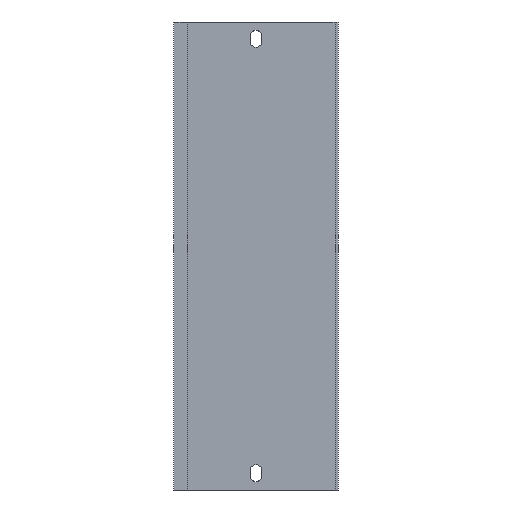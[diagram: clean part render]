
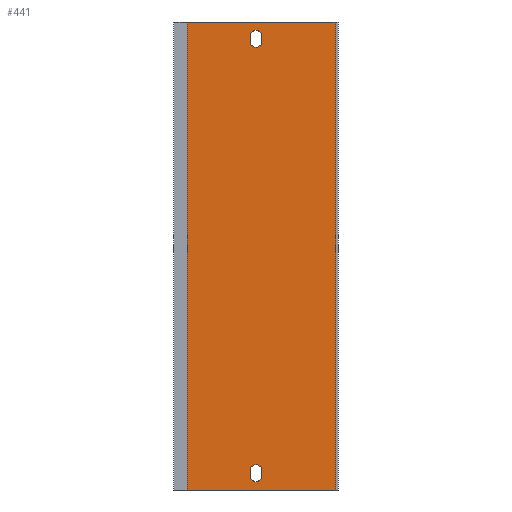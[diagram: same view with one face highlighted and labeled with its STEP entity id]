
A CAD part, front view. The second image highlights one B-rep face of the part: STEP entity #441.
In plain terms, the highlighted planar face has unit normal (0, -1, 0).
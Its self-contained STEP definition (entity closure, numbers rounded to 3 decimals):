
#8 = CIRCLE ( 'NONE', #627, 3.5 ) ;
#19 = VERTEX_POINT ( 'NONE', #637 ) ;
#30 = CARTESIAN_POINT ( 'NONE',  ( 37.5, 11., 270.5 ) ) ;
#33 = DIRECTION ( 'NONE',  ( 0., 0., 1. ) ) ;
#37 = EDGE_CURVE ( 'NONE', #273, #116, #138, .T. ) ;
#43 = VECTOR ( 'NONE', #405, 1000. ) ;
#47 = CARTESIAN_POINT ( 'NONE',  ( 44.5, 11., 270.5 ) ) ;
#50 = CARTESIAN_POINT ( 'NONE',  ( 37.5, 11., 8.5 ) ) ;
#51 = EDGE_CURVE ( 'NONE', #282, #434, #956, .T. ) ;
#59 = EDGE_LOOP ( 'NONE', ( #368, #187, #522, #621, #783, #193, #536, #360 ) ) ;
#61 = CARTESIAN_POINT ( 'NONE',  ( 41., 11., 8.5 ) ) ;
#70 = VERTEX_POINT ( 'NONE', #128 ) ;
#75 = ORIENTED_EDGE ( 'NONE', *, *, #1064, .T. ) ;
#77 = CARTESIAN_POINT ( 'NONE',  ( 41., 11., 11.5 ) ) ;
#79 = CARTESIAN_POINT ( 'NONE',  ( -8., 11., 279. ) ) ;
#80 = AXIS2_PLACEMENT_3D ( 'NONE', #568, #132, #477 ) ;
#86 = DIRECTION ( 'NONE',  ( 1., 0., 0. ) ) ;
#94 = VECTOR ( 'NONE', #510, 1000. ) ;
#116 = VERTEX_POINT ( 'NONE', #719 ) ;
#121 = DIRECTION ( 'NONE',  ( 0., -1., 0. ) ) ;
#127 = VERTEX_POINT ( 'NONE', #943 ) ;
#128 = CARTESIAN_POINT ( 'NONE',  ( 88.5, 11., 279. ) ) ;
#129 = VERTEX_POINT ( 'NONE', #725 ) ;
#130 = CARTESIAN_POINT ( 'NONE',  ( -4.8, 11., 0. ) ) ;
#132 = DIRECTION ( 'NONE',  ( 0., -1., 0. ) ) ;
#135 = DIRECTION ( 'NONE',  ( 1., 0., 0. ) ) ;
#138 = LINE ( 'NONE', #711, #500 ) ;
#167 = EDGE_CURVE ( 'NONE', #273, #552, #631, .T. ) ;
#168 = CARTESIAN_POINT ( 'NONE',  ( -6.5, 11., 0. ) ) ;
#178 = CIRCLE ( 'NONE', #240, 3.5 ) ;
#183 = CARTESIAN_POINT ( 'NONE',  ( -8., 11., 279. ) ) ;
#184 = LINE ( 'NONE', #437, #94 ) ;
#186 = EDGE_CURVE ( 'NONE', #374, #647, #855, .T. ) ;
#187 = ORIENTED_EDGE ( 'NONE', *, *, #526, .T. ) ;
#189 = EDGE_LOOP ( 'NONE', ( #895, #910, #983, #900, #527 ) ) ;
#193 = ORIENTED_EDGE ( 'NONE', *, *, #186, .T. ) ;
#201 = CARTESIAN_POINT ( 'NONE',  ( -4.8, 11., 279. ) ) ;
#212 = VERTEX_POINT ( 'NONE', #1011 ) ;
#218 = CARTESIAN_POINT ( 'NONE',  ( 41., 11., 5. ) ) ;
#219 = CARTESIAN_POINT ( 'NONE',  ( 37.5, 11., 270.5 ) ) ;
#220 = CARTESIAN_POINT ( 'NONE',  ( 44.5, 11., 11.5 ) ) ;
#240 = AXIS2_PLACEMENT_3D ( 'NONE', #77, #912, #750 ) ;
#242 = EDGE_CURVE ( 'NONE', #374, #605, #996, .T. ) ;
#254 = CIRCLE ( 'NONE', #848, 3.5 ) ;
#259 = EDGE_CURVE ( 'NONE', #434, #396, #427, .T. ) ;
#261 = VECTOR ( 'NONE', #33, 1000. ) ;
#273 = VERTEX_POINT ( 'NONE', #130 ) ;
#282 = VERTEX_POINT ( 'NONE', #30 ) ;
#320 = AXIS2_PLACEMENT_3D ( 'NONE', #941, #121, #466 ) ;
#343 = FACE_OUTER_BOUND ( 'NONE', #59, .T. ) ;
#351 = CARTESIAN_POINT ( 'NONE',  ( -4.8, 11., 279. ) ) ;
#352 = VERTEX_POINT ( 'NONE', #220 ) ;
#355 = ORIENTED_EDGE ( 'NONE', *, *, #430, .T. ) ;
#360 = ORIENTED_EDGE ( 'NONE', *, *, #167, .F. ) ;
#362 = ORIENTED_EDGE ( 'NONE', *, *, #658, .T. ) ;
#368 = ORIENTED_EDGE ( 'NONE', *, *, #37, .T. ) ;
#374 = VERTEX_POINT ( 'NONE', #351 ) ;
#387 = VERTEX_POINT ( 'NONE', #218 ) ;
#395 = EDGE_CURVE ( 'NONE', #19, #70, #436, .T. ) ;
#396 = VERTEX_POINT ( 'NONE', #1052 ) ;
#405 = DIRECTION ( 'NONE',  ( 0., 0., -1. ) ) ;
#416 = LINE ( 'NONE', #743, #738 ) ;
#418 = FACE_BOUND ( 'NONE', #630, .T. ) ;
#420 = EDGE_CURVE ( 'NONE', #127, #387, #8, .T. ) ;
#427 = CIRCLE ( 'NONE', #849, 3.5 ) ;
#430 = EDGE_CURVE ( 'NONE', #212, #352, #178, .T. ) ;
#434 = VERTEX_POINT ( 'NONE', #1059 ) ;
#436 = LINE ( 'NONE', #504, #909 ) ;
#437 = CARTESIAN_POINT ( 'NONE',  ( 37.5, 11., 8.5 ) ) ;
#441 = ADVANCED_FACE ( 'NONE', ( #343, #826, #418 ), #678, .F. ) ;
#444 = CARTESIAN_POINT ( 'NONE',  ( 44.5, 11., 270.5 ) ) ;
#457 = DIRECTION ( 'NONE',  ( 1., 0., 0. ) ) ;
#466 = DIRECTION ( 'NONE',  ( 0., 0., -1. ) ) ;
#477 = DIRECTION ( 'NONE',  ( 0., 0., -1. ) ) ;
#480 = VECTOR ( 'NONE', #949, 1000. ) ;
#500 = VECTOR ( 'NONE', #868, 1000. ) ;
#504 = CARTESIAN_POINT ( 'NONE',  ( 88.5, 11., 279. ) ) ;
#506 = VECTOR ( 'NONE', #86, 1000. ) ;
#509 = DIRECTION ( 'NONE',  ( 0., 0., -1. ) ) ;
#510 = DIRECTION ( 'NONE',  ( 0., 0., 1. ) ) ;
#516 = CIRCLE ( 'NONE', #320, 3.5 ) ;
#522 = ORIENTED_EDGE ( 'NONE', *, *, #395, .T. ) ;
#526 = EDGE_CURVE ( 'NONE', #116, #19, #718, .T. ) ;
#527 = ORIENTED_EDGE ( 'NONE', *, *, #259, .F. ) ;
#536 = ORIENTED_EDGE ( 'NONE', *, *, #708, .F. ) ;
#547 = VERTEX_POINT ( 'NONE', #50 ) ;
#552 = VERTEX_POINT ( 'NONE', #168 ) ;
#559 = VECTOR ( 'NONE', #135, 1000. ) ;
#568 = CARTESIAN_POINT ( 'NONE',  ( 41., 11., 270.5 ) ) ;
#593 = DIRECTION ( 'NONE',  ( 0., 0., 1. ) ) ;
#594 = DIRECTION ( 'NONE',  ( 0., -1., 0. ) ) ;
#596 = DIRECTION ( 'NONE',  ( 0., 0., 1. ) ) ;
#605 = VERTEX_POINT ( 'NONE', #913 ) ;
#609 = EDGE_CURVE ( 'NONE', #605, #70, #982, .T. ) ;
#611 = VECTOR ( 'NONE', #698, 1000. ) ;
#621 = ORIENTED_EDGE ( 'NONE', *, *, #609, .F. ) ;
#627 = AXIS2_PLACEMENT_3D ( 'NONE', #61, #668, #596 ) ;
#630 = EDGE_LOOP ( 'NONE', ( #866, #75, #362, #355, #1057 ) ) ;
#631 = LINE ( 'NONE', #871, #480 ) ;
#637 = CARTESIAN_POINT ( 'NONE',  ( 88.5, 11., 0. ) ) ;
#647 = VERTEX_POINT ( 'NONE', #759 ) ;
#658 = EDGE_CURVE ( 'NONE', #547, #212, #184, .T. ) ;
#668 = DIRECTION ( 'NONE',  ( 0., 1., 0. ) ) ;
#674 = DIRECTION ( 'NONE',  ( 0., 0., 1. ) ) ;
#678 = PLANE ( 'NONE',  #835 ) ;
#680 = VECTOR ( 'NONE', #935, 1000. ) ;
#698 = DIRECTION ( 'NONE',  ( -1., 0., 0. ) ) ;
#708 = EDGE_CURVE ( 'NONE', #552, #647, #930, .T. ) ;
#711 = CARTESIAN_POINT ( 'NONE',  ( -8., 11., 0. ) ) ;
#715 = VECTOR ( 'NONE', #457, 1000. ) ;
#718 = LINE ( 'NONE', #976, #559 ) ;
#719 = CARTESIAN_POINT ( 'NONE',  ( 86.8, 11., 0. ) ) ;
#725 = CARTESIAN_POINT ( 'NONE',  ( 44.5, 11., 267.5 ) ) ;
#738 = VECTOR ( 'NONE', #1055, 1000. ) ;
#743 = CARTESIAN_POINT ( 'NONE',  ( 44.5, 11., 8.5 ) ) ;
#745 = CARTESIAN_POINT ( 'NONE',  ( -8., 11., 279. ) ) ;
#750 = DIRECTION ( 'NONE',  ( 0., 0., 1. ) ) ;
#757 = DIRECTION ( 'NONE',  ( 0., 1., 0. ) ) ;
#759 = CARTESIAN_POINT ( 'NONE',  ( -6.5, 11., 279. ) ) ;
#783 = ORIENTED_EDGE ( 'NONE', *, *, #242, .F. ) ;
#788 = CARTESIAN_POINT ( 'NONE',  ( 41., 11., 267.5 ) ) ;
#794 = LINE ( 'NONE', #444, #261 ) ;
#812 = EDGE_CURVE ( 'NONE', #396, #129, #516, .T. ) ;
#826 = FACE_BOUND ( 'NONE', #189, .T. ) ;
#827 = EDGE_CURVE ( 'NONE', #129, #929, #794, .T. ) ;
#831 = CARTESIAN_POINT ( 'NONE',  ( 41., 11., 8.5 ) ) ;
#835 = AXIS2_PLACEMENT_3D ( 'NONE', #745, #757, #593 ) ;
#848 = AXIS2_PLACEMENT_3D ( 'NONE', #831, #1062, #674 ) ;
#849 = AXIS2_PLACEMENT_3D ( 'NONE', #788, #594, #509 ) ;
#855 = LINE ( 'NONE', #201, #611 ) ;
#857 = CARTESIAN_POINT ( 'NONE',  ( -6.5, 11., 279. ) ) ;
#866 = ORIENTED_EDGE ( 'NONE', *, *, #420, .T. ) ;
#868 = DIRECTION ( 'NONE',  ( 1., 0., 0. ) ) ;
#871 = CARTESIAN_POINT ( 'NONE',  ( -8., 11., 0. ) ) ;
#879 = CIRCLE ( 'NONE', #80, 3.5 ) ;
#895 = ORIENTED_EDGE ( 'NONE', *, *, #51, .F. ) ;
#898 = DIRECTION ( 'NONE',  ( 0., 0., 1. ) ) ;
#900 = ORIENTED_EDGE ( 'NONE', *, *, #812, .F. ) ;
#909 = VECTOR ( 'NONE', #898, 1000. ) ;
#910 = ORIENTED_EDGE ( 'NONE', *, *, #914, .F. ) ;
#912 = DIRECTION ( 'NONE',  ( 0., 1., 0. ) ) ;
#913 = CARTESIAN_POINT ( 'NONE',  ( 86.8, 11., 279. ) ) ;
#914 = EDGE_CURVE ( 'NONE', #929, #282, #879, .T. ) ;
#929 = VERTEX_POINT ( 'NONE', #47 ) ;
#930 = LINE ( 'NONE', #857, #680 ) ;
#935 = DIRECTION ( 'NONE',  ( 0., 0., 1. ) ) ;
#941 = CARTESIAN_POINT ( 'NONE',  ( 41., 11., 267.5 ) ) ;
#943 = CARTESIAN_POINT ( 'NONE',  ( 44.5, 11., 8.5 ) ) ;
#949 = DIRECTION ( 'NONE',  ( -1., 0., 0. ) ) ;
#956 = LINE ( 'NONE', #219, #43 ) ;
#976 = CARTESIAN_POINT ( 'NONE',  ( 86.8, 11., 0. ) ) ;
#982 = LINE ( 'NONE', #79, #506 ) ;
#983 = ORIENTED_EDGE ( 'NONE', *, *, #827, .F. ) ;
#985 = EDGE_CURVE ( 'NONE', #352, #127, #416, .T. ) ;
#996 = LINE ( 'NONE', #183, #715 ) ;
#1011 = CARTESIAN_POINT ( 'NONE',  ( 37.5, 11., 11.5 ) ) ;
#1052 = CARTESIAN_POINT ( 'NONE',  ( 41., 11., 264. ) ) ;
#1055 = DIRECTION ( 'NONE',  ( 0., 0., -1. ) ) ;
#1057 = ORIENTED_EDGE ( 'NONE', *, *, #985, .T. ) ;
#1059 = CARTESIAN_POINT ( 'NONE',  ( 37.5, 11., 267.5 ) ) ;
#1062 = DIRECTION ( 'NONE',  ( 0., 1., 0. ) ) ;
#1064 = EDGE_CURVE ( 'NONE', #387, #547, #254, .T. ) ;
